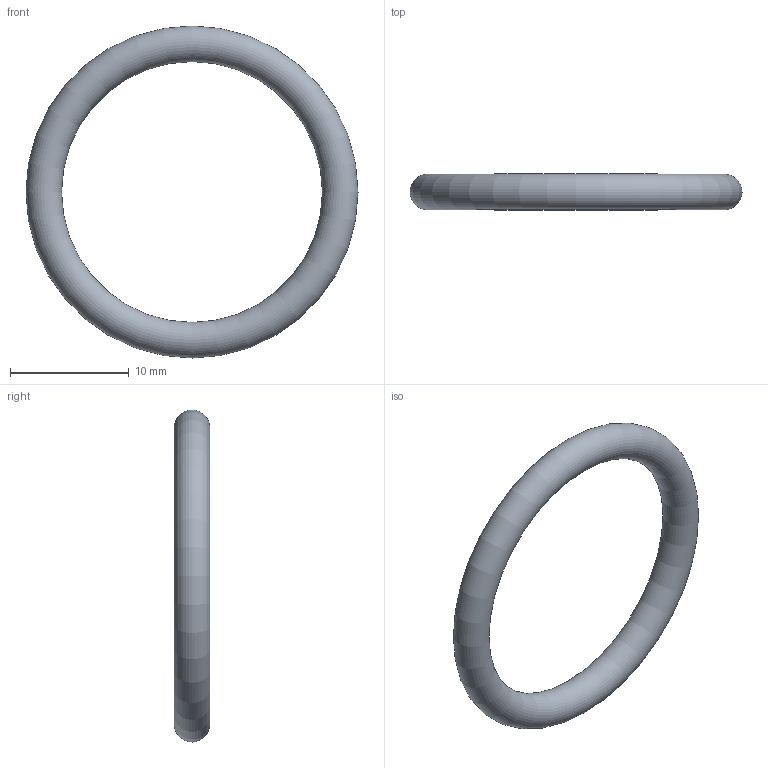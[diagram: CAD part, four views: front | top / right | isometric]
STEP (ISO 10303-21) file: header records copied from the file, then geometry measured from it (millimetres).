
FILE_DESCRIPTION( ( 'STEP AP203' ), '1' );
FILE_NAME( 'C:/Temp/Ganter_Step_05_03_2020/data/3_5/or638/O-Ring OR638-22.00-3.00-70.stp', '2020-03-12T13:44:29', ( 'License CC BY-ND 4.0' ), ( 'CADENAS' ), ' ', 'PARTsolutions', ' ' );
FILE_SCHEMA( ( 'CONFIG_CONTROL_DESIGN' ) );
Length unit declared in the file: millimetre
Products named in the file (1): _O-Ring OR638-22.00-3.00-70
Bounding box: 28 x 3 x 28 mm (x, y, z)
Volume: 555.2 mm3; surface area: 740.2 mm2
Topology: 1 solids, 1 shells, 1 faces, 2 edges, 1 vertices
Faces by surface type: torus 1
Entity records: 62 total; most frequent: CC_DESIGN_PERSON_AND_ORGANIZATION_ASSIGNMENT 5, PERSON_AND_ORGANIZATION_ROLE 4, DIRECTION 4, CARTESIAN_POINT 3, DATE_TIME_ROLE 2, CC_DESIGN_DATE_AND_TIME_ASSIGNMENT 2, AXIS2_PLACEMENT_3D 2, DIMENSIONAL_EXPONENTS 2
